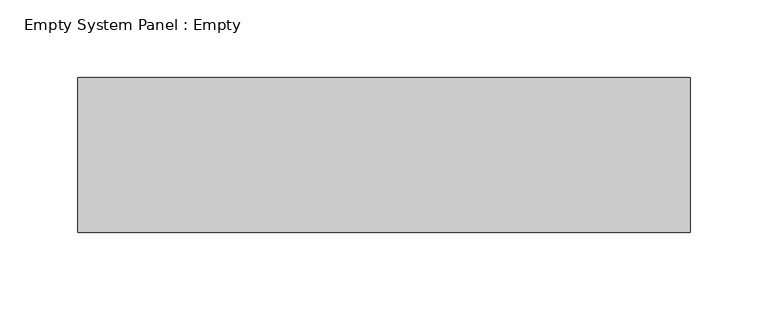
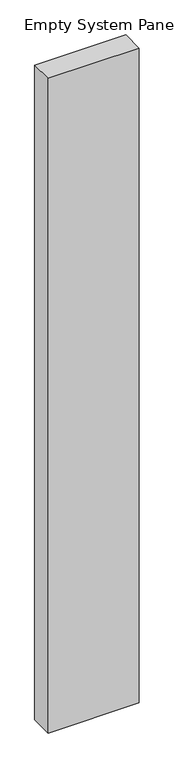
"""IFC4 building model written with IfcOpenShell, lengths in millimetres: plate geometry, Empty System Panel : Empty."""

from ifc_helpers import new_model, si_unit, origin, origin_with_axes, place, context, project, spatial, polyline, outline, extrude, source, transform, mapped, element, save


def empty_system_panel_empty_709fa1db(model_context):
    return source(origin(), model_context, "Body", "SweptSolid", [
        extrude(outline(polyline([(197.5, -50.0), (-197.5, -50.0), (-197.5, 50.0), (197.5, 50.0), (197.5, -50.0)])), origin_with_axes(), (0.0, 0.0, 1.0), 3000.0),
    ])


if __name__ == "__main__":
    model = new_model("IFC4")
    model_context = context("Model", 3, world=origin())
    ifc_project = project(units=[si_unit("LENGTHUNIT", "METRE", prefix="MILLI")], contexts=[model_context])
    site = spatial("IfcSite", under=ifc_project)
    building = spatial("IfcBuilding", under=site)
    placement = place(None, origin())
    empty_system_panel_empty_shape = empty_system_panel_empty_709fa1db(model_context)
    element("IfcPlate", 1, ObjectType="Empty System Panel : Empty", at=placement, inside=building, context=model_context, shape_type="MappedRepresentation", body=[
        mapped(empty_system_panel_empty_shape, transform((0.0, 0.0, 0.0), x_axis=(1.0, 0.0, 0.0), y_axis=(0.0, 1.0, 0.0), z_axis=(0.0, 0.0, 1.0))),
    ])
    save(model, "model.ifc")
